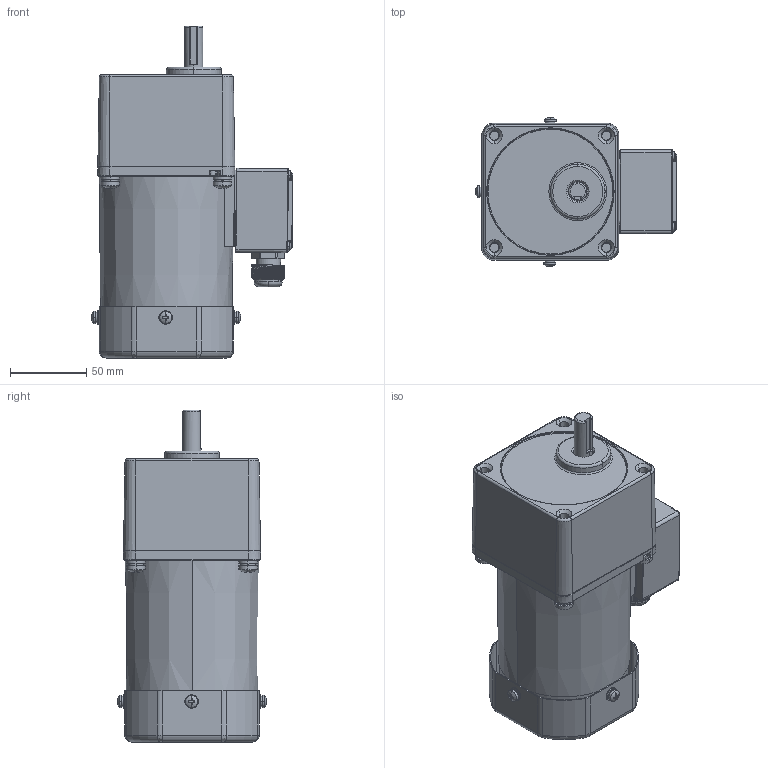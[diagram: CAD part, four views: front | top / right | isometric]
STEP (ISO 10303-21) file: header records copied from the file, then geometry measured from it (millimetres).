
FILE_DESCRIPTION (( 'STEP AP203' ), '1' );
FILE_NAME ('5IK40GN-CFT(5GN3K-200K).STEP', '2020-04-09T02:16:53', ( 'Windows 蚚誧' ), ( '' ), 'SwSTEP 2.0', 'SolidWorks 2019', '' );
FILE_SCHEMA (( 'CONFIG_CONTROL_DESIGN' ));
Length unit declared in the file: millimetre
Products named in the file (14): JXH-1; SJQ^3IK15GN-CT(3GN3K-200K）(2)_JXH-1; 5IK40A-CT; M3^3IK15GN-CT(3GN3K-200K）(2)_JXH-1; 5GN3K‵200K; PRT0002^3IK15GN-CT(3GN3K-200K）(2)_JXH-1; 5IK40GN-CT(5GN3K-200K); PRT0003^3IK15GN-CT(3GN3K-200K）(2)_JXH-1; 90FZ; PRT0004^3IK15GN-CT(3GN3K-200K）(2)_JXH-1; 5IK40GN-CFT(5GN3K-200K); 9040TSJXHJK; 3IK15GN-CT(3GN3K-200K）(2)^JXH-1; 4IK25GN-CT_8^3IK15GN-CT(3GN3K-200K）(2)_JXH-1
Assembly tree (13 placements, depth 6):
  5IK40GN-CFT(5GN3K-200K)
    5IK40GN-CT(5GN3K-200K)
      5IK40A-CT
        9040TSJXHJK
        JXH-1
          3IK15GN-CT(3GN3K-200K）(2)^JXH-1
            4IK25GN-CT_8^3IK15GN-CT(3GN3K-200K）(2)_JXH-1
            SJQ^3IK15GN-CT(3GN3K-200K）(2)_JXH-1
            M3^3IK15GN-CT(3GN3K-200K）(2)_JXH-1
            PRT0002^3IK15GN-CT(3GN3K-200K）(2)_JXH-1
            PRT0003^3IK15GN-CT(3GN3K-200K）(2)_JXH-1
            PRT0004^3IK15GN-CT(3GN3K-200K）(2)_JXH-1
      5GN3K‵200K
    90FZ
Bounding box: 132.2 x 98.11 x 218 mm (x, y, z)
Volume: 756544.2 mm3; surface area: 195520.5 mm2
Topology: 51 solids, 52 shells, 2146 faces, 5510 edges, 3490 vertices
Faces by surface type: cylinder 812, plane 623, cone 409, torus 156, sphere 82, bspline 64
Entity records: 73427 total; most frequent: CARTESIAN_POINT 19027, DIRECTION 11835, ORIENTED_EDGE 10920, EDGE_CURVE 5460, AXIS2_PLACEMENT_3D 4873, VERTEX_POINT 3482, CIRCLE 2771, EDGE_LOOP 2286
